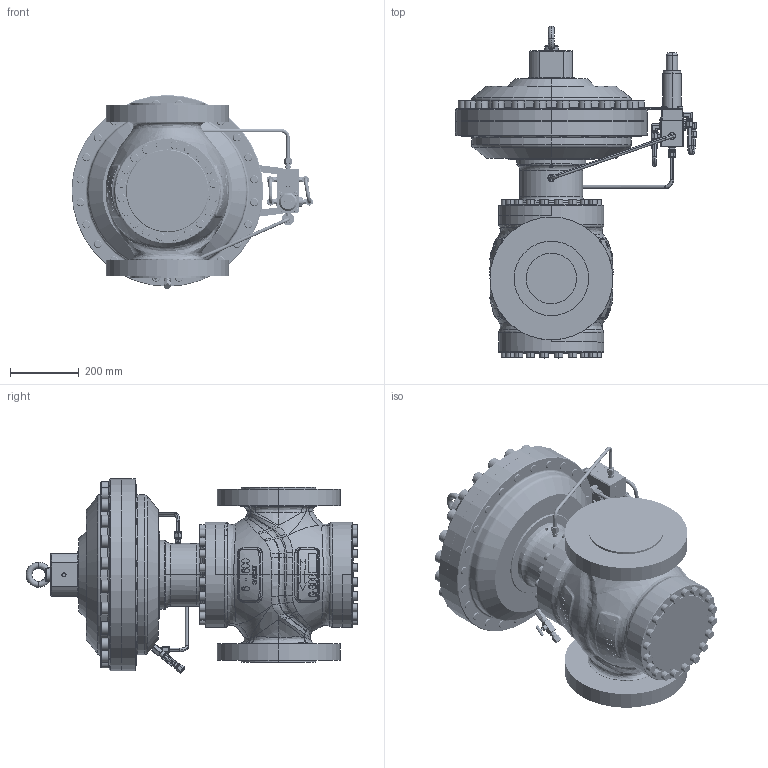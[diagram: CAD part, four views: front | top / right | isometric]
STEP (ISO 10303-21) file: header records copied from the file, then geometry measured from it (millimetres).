
FILE_DESCRIPTION((''),'2;1');
FILE_NAME('233088R0_URANO_6-600-_SW0002','2019-09-11T',('jjunior'),(''),'PRO/ENGINEER BY PARAMETRIC TECHNOLOGY CORPORATION, 2010160','PRO/ENGINEER BY PARAMETRIC TECHNOLOGY CORPORATION, 2010160','');
FILE_SCHEMA(('CONFIG_CONTROL_DESIGN'));
Products named in the file (1): 233088R0_URANO_6-600-_SW0002
Bounding box: 698.74 x 962.2 x 562.69 mm (x, y, z)
Volume: 49988912.6 mm3; surface area: 3710478.9 mm2
Topology: 1 solids, 4 shells, 3972 faces, 9469 edges, 5783 vertices
Faces by surface type: plane 1585, cylinder 905, cone 680, bspline 487, torus 315
Entity records: 156249 total; most frequent: CARTESIAN_POINT 71321, ORIENTED_EDGE 18742, DIRECTION 15745, EDGE_CURVE 9371, AXIS2_PLACEMENT_3D 6401, VERTEX_POINT 5783, EDGE_LOOP 4402, FACE_OUTER_BOUND 3972
